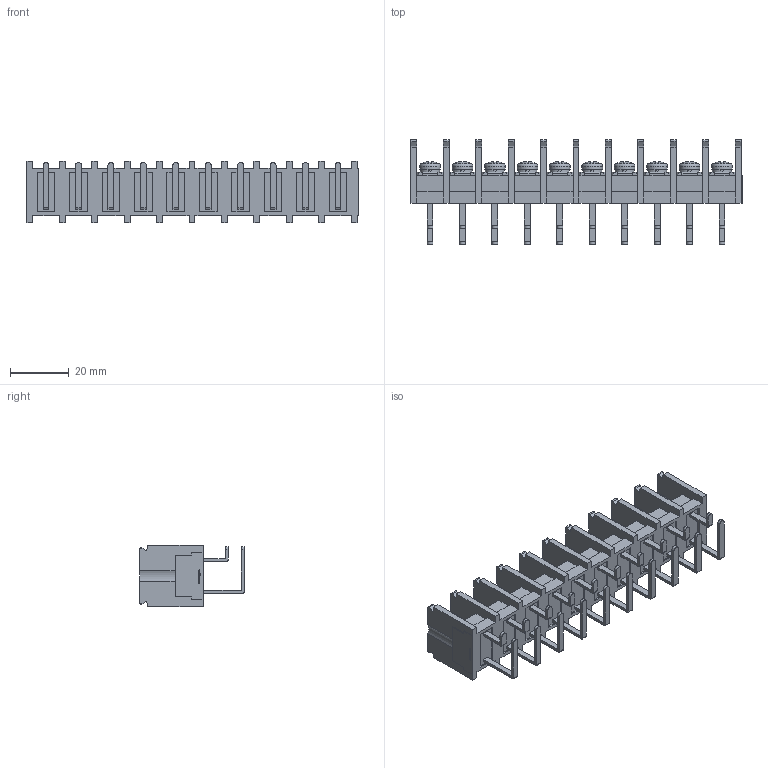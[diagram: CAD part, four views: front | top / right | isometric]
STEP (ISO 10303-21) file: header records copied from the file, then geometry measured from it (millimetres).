
FILE_DESCRIPTION(/* description */ ('Alibre Inc.'),/* implementation_level */ '2;1');
FILE_NAME(/* name */ 'export0',/* time_stamp */ '2015-12-02T12:55:00+09:00',/* author */ (''),/* organization */ (''),/* preprocessor_version */ 'ST-DEVELOPER v14',/* originating_system */ 'Alibre',/* authorisation */ '');
FILE_SCHEMA (('CONFIG_CONTROL_DESIGN'));
Length unit declared in the file: centimetre
Products named in the file (1): ID_1
Bounding box: 112.6 x 35.5 x 21 mm (x, y, z)
Volume: 20934.7 mm3; surface area: 23649.2 mm2
Topology: 1 solids, 17 shells, 1480 faces, 4048 edges, 2692 vertices
Faces by surface type: plane 1162, cylinder 144, bspline 104, cone 50, sphere 10, torus 10
Full cylindrical faces by diameter (mm): 4 x10, 6.5 x10, 7 x10
Entity records: 44711 total; most frequent: CARTESIAN_POINT 9250, ORIENTED_EDGE 8016, DIRECTION 5693, EDGE_CURVE 4008, VECTOR 3067, LINE 3067, VERTEX_POINT 2692, AXIS2_PLACEMENT_3D 1843
